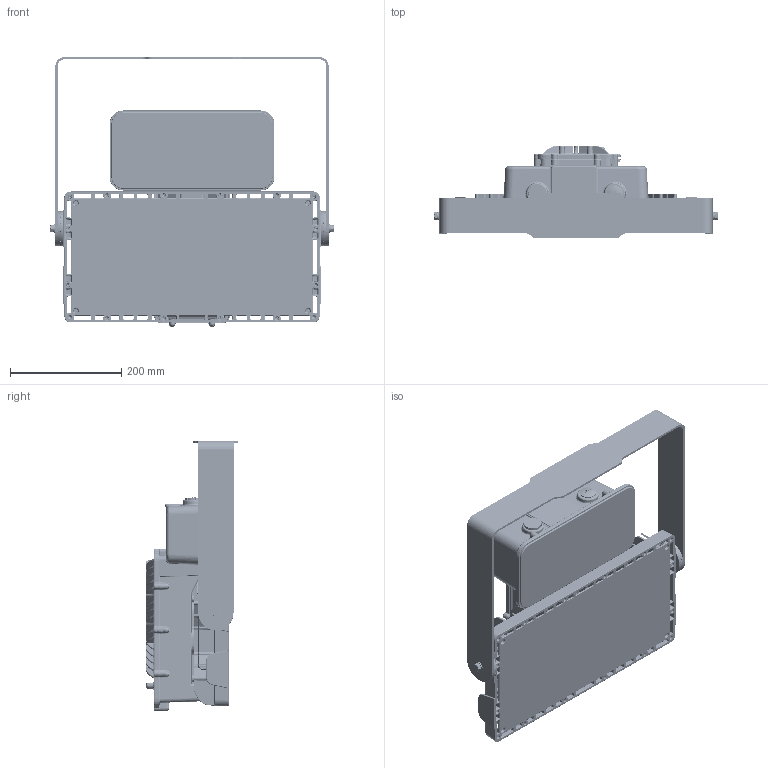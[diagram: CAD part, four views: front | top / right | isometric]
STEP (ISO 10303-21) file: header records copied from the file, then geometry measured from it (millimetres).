
FILE_DESCRIPTION((''),'2;1');
FILE_NAME('F1XNXXXX_DJ_FNXXN_SW','2021-04-12T11:19:25',('gatsonnb'),(''),'CREO PARAMETRIC BY PTC INC, 2019080','CREO PARAMETRIC BY PTC INC, 2019080','');
FILE_SCHEMA(('CONFIG_CONTROL_DESIGN'));
Products named in the file (1): F1XNXXXX_DJ_FNXXN_SW
Bounding box: 508.79 x 166.88 x 485.22 mm (x, y, z)
Volume: 8078118.5 mm3; surface area: 1176751 mm2
Topology: 2 solids, 104 shells, 13509 faces, 31094 edges, 17681 vertices
Faces by surface type: bspline 5412, cylinder 3264, plane 1987, cone 1298, torus 1054, sphere 494
Entity records: 743934 total; most frequent: CARTESIAN_POINT 484395, ORIENTED_EDGE 61842, DIRECTION 43354, EDGE_CURVE 30921, AXIS2_PLACEMENT_3D 17810, VERTEX_POINT 17681, EDGE_LOOP 13702, FACE_OUTER_BOUND 13509
